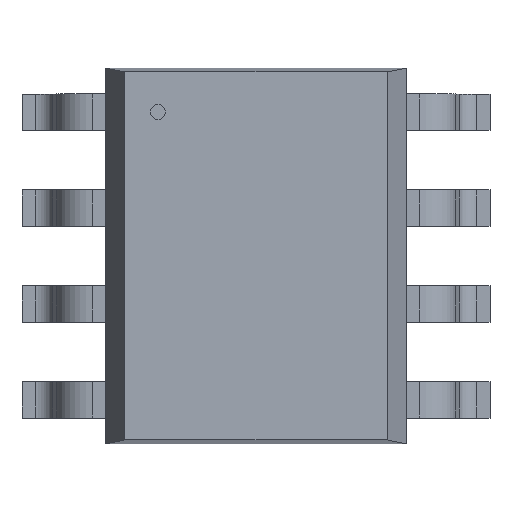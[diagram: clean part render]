
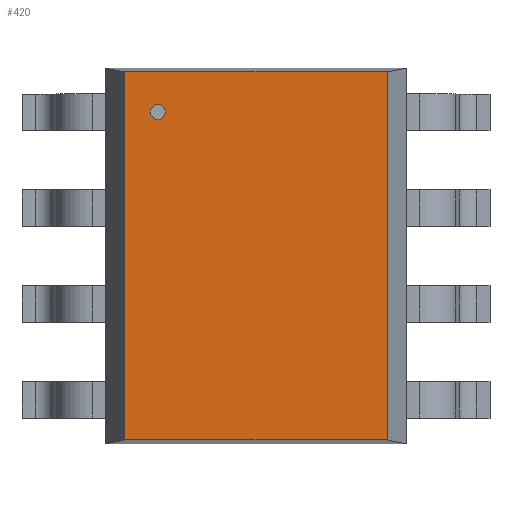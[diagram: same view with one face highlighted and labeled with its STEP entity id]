
A CAD part, top view. The second image highlights one B-rep face of the part: STEP entity #420.
In plain terms, the highlighted planar face has unit normal (0, 0, 1).
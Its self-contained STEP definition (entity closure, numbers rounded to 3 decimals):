
#420=ADVANCED_FACE('',(#426),#421,.F.);
#421=PLANE('',#422);
#422=AXIS2_PLACEMENT_3D('',#423,#424,#425);
#423=CARTESIAN_POINT('Origin',(-1.74,-2.438,1.676));
#424=DIRECTION('center_axis',(0.0,0.0,-1.0));
#425=DIRECTION('ref_axis',(0.,1.,0.));
#426=FACE_OUTER_BOUND('',#427,.T.);
#427=EDGE_LOOP('',(#428,#438,#448,#458));
#428=ORIENTED_EDGE('',*,*,#429,.F.);
#429=EDGE_CURVE('',#430,#432,#434,.T.);
#430=VERTEX_POINT('',#431);
#431=CARTESIAN_POINT('',(1.74,-2.438,1.676));
#432=VERTEX_POINT('',#433);
#433=CARTESIAN_POINT('',(-1.74,-2.438,1.676));
#434=LINE('',#435,#436);
#435=CARTESIAN_POINT('',(1.74,-2.438,1.676));
#436=VECTOR('',#437,3.48);
#437=DIRECTION('',(-1.0,0.0,0.0));
#438=ORIENTED_EDGE('',*,*,#439,.F.);
#439=EDGE_CURVE('',#440,#442,#444,.T.);
#440=VERTEX_POINT('',#441);
#441=CARTESIAN_POINT('',(1.74,2.438,1.676));
#442=VERTEX_POINT('',#431);
#444=LINE('',#445,#446);
#445=CARTESIAN_POINT('',(1.74,2.438,1.676));
#446=VECTOR('',#447,4.877);
#447=DIRECTION('',(0.0,-1.0,0.0));
#448=ORIENTED_EDGE('',*,*,#449,.F.);
#449=EDGE_CURVE('',#450,#452,#454,.T.);
#450=VERTEX_POINT('',#451);
#451=CARTESIAN_POINT('',(-1.74,2.438,1.676));
#452=VERTEX_POINT('',#441);
#454=LINE('',#455,#456);
#455=CARTESIAN_POINT('',(-1.74,2.438,1.676));
#456=VECTOR('',#457,3.48);
#457=DIRECTION('',(1.0,0.0,0.0));
#458=ORIENTED_EDGE('',*,*,#459,.F.);
#459=EDGE_CURVE('',#460,#462,#464,.T.);
#460=VERTEX_POINT('',#433);
#462=VERTEX_POINT('',#451);
#464=LINE('',#465,#466);
#465=CARTESIAN_POINT('',(-1.74,-2.438,1.676));
#466=VECTOR('',#467,4.877);
#467=DIRECTION('',(0.0,1.0,0.0));
